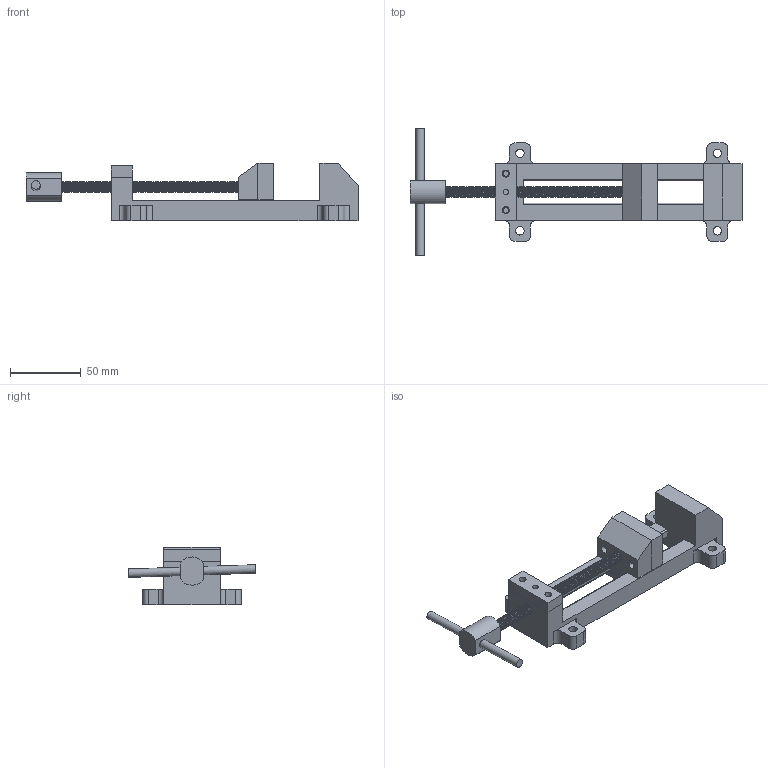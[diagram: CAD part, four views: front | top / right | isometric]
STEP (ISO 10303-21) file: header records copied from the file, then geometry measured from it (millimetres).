
FILE_DESCRIPTION(/* description */ (''),/* implementation_level */ '2;1');
FILE_NAME(/* name */ 'Prensa.step',/* time_stamp */ '2022-11-29T00:14:03-03:00',/* author */ (''),/* organization */ (''),/* preprocessor_version */ 'ST-DEVELOPER v19.2',/* originating_system */ 'Autodesk Translation Framework v11.17.0.187',/* authorisation */ '');
FILE_SCHEMA (('AUTOMOTIVE_DESIGN { 1 0 10303 214 3 1 1 }','INTEGRATED_CNC_SCHEMA','MODEL_BASED_INTEGRATED_MANUFACTURING_SCHEMA','PROCESS_PLANNING_SCHEMA','AP242_MANAGED_MODEL_BASED_3D_ENGINEERING_MIM_LF { 1 0 10303 442 3 1 4 }'));
Length unit declared in the file: millimetre
Products named in the file (10): Prensa; Placa - Tapa; Cuerpo Base; Placa - Base; Barita; Soporte; Placa - Cuerpo; Perno M8x1.25x150mm; Tuerca M8x6.5; Tapa
Assembly tree (9 placements, depth 2):
  Prensa
    Placa - Tapa
    Cuerpo Base
    Placa - Base
    Barita
    Soporte
    Placa - Cuerpo
    Perno M8x1.25x150mm
    Tuerca M8x6.5
    Tapa
Bounding box: 235.46 x 90.15 x 41 mm (x, y, z)
Volume: 143638.8 mm3; surface area: 54538.8 mm2
Topology: 9 solids, 9 shells, 408 faces, 1146 edges, 763 vertices
Faces by surface type: cylinder 287, plane 108, cone 11, bspline 2
Full cylindrical faces by diameter (mm): 4 x7, 5 x6, 6 x6, 6.376 x118, 6.779 x1, 8 x119, 9 x3, 17 x1
Entity records: 29453 total; most frequent: CARTESIAN_POINT 19672, ORIENTED_EDGE 2292, DIRECTION 1596, EDGE_CURVE 1146, VERTEX_POINT 763, LINE 532, VECTOR 532, AXIS2_PLACEMENT_3D 532
